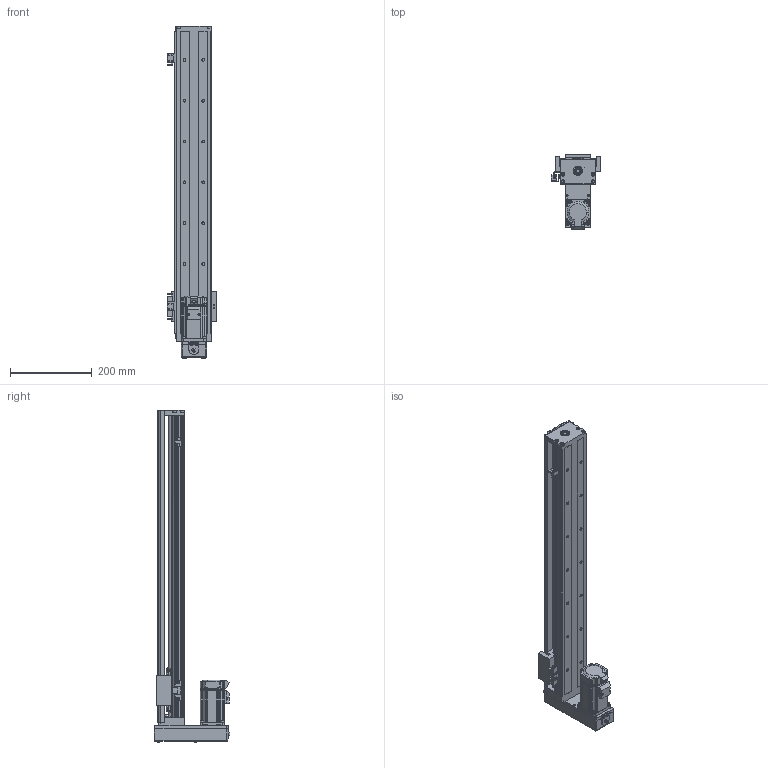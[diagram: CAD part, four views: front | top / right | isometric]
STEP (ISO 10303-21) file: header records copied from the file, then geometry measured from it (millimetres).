
FILE_DESCRIPTION (( 'STEP AP214' ), '1' );
FILE_NAME ('SFKK86-740A1-HM0C.STEP', '2022-05-05T13:13:46', ( '微软用户' ), ( '微软中国' ), 'SwSTEP 2.0', 'SolidWorks 2018', '' );
FILE_SCHEMA (( 'AUTOMOTIVE_DESIGN' ));
Length unit declared in the file: millimetre
Products named in the file (12): hexagon socket countersunk head screws gb_GB_FASTENER_SCREWS_HSCHS M3X8-N; SFKK86-CU_740; SX674嫖萇羲壽; SFKK86-H0_KKR86-ZT-P-740; 带盖挡光片：KK-86-S2-D1; 开关固定座：KK-674S2-F; SFKK86-740A1-HM0C; SFKK86-A1-C; 极限轨道与开关固定座组合_740; SFKK86-LR 憤癹寢耋_740; SFKK86-H0-侂狟400W耜蚾; hexagon socket countersunk head screws gb_GB_FASTENER_SCREWS_HSCHS M4X10-N
Assembly tree (18 placements, depth 3):
  SFKK86-740A1-HM0C
    SFKK86-H0_KKR86-ZT-P-740
    SFKK86-A1-C
    极限轨道与开关固定座组合_740
      SFKK86-LR 憤癹寢耋_740
      开关固定座：KK-674S2-F  x2
    SX674嫖萇羲壽  x3
    带盖挡光片：KK-86-S2-D1
    hexagon socket countersunk head screws gb_GB_FASTENER_SCREWS_HSCHS M3X8-N  x2
    SFKK86-CU_740
    hexagon socket countersunk head screws gb_GB_FASTENER_SCREWS_HSCHS M4X10-N  x4
    SFKK86-H0-侂狟400W耜蚾
Bounding box: 121.25 x 185.75 x 813.2 mm (x, y, z)
Volume: 1874557.2 mm3; surface area: 742639 mm2
Topology: 38 solids, 87 shells, 3706 faces, 9871 edges, 6315 vertices
Faces by surface type: plane 1631, cylinder 1494, cone 341, torus 105, bspline 102, sphere 33
Entity records: 140257 total; most frequent: CARTESIAN_POINT 31134, DIRECTION 18588, ORIENTED_EDGE 17826, EDGE_CURVE 9196, AXIS2_PLACEMENT_3D 6701, VERTEX_POINT 5989, VECTOR 5186, LINE 5186
